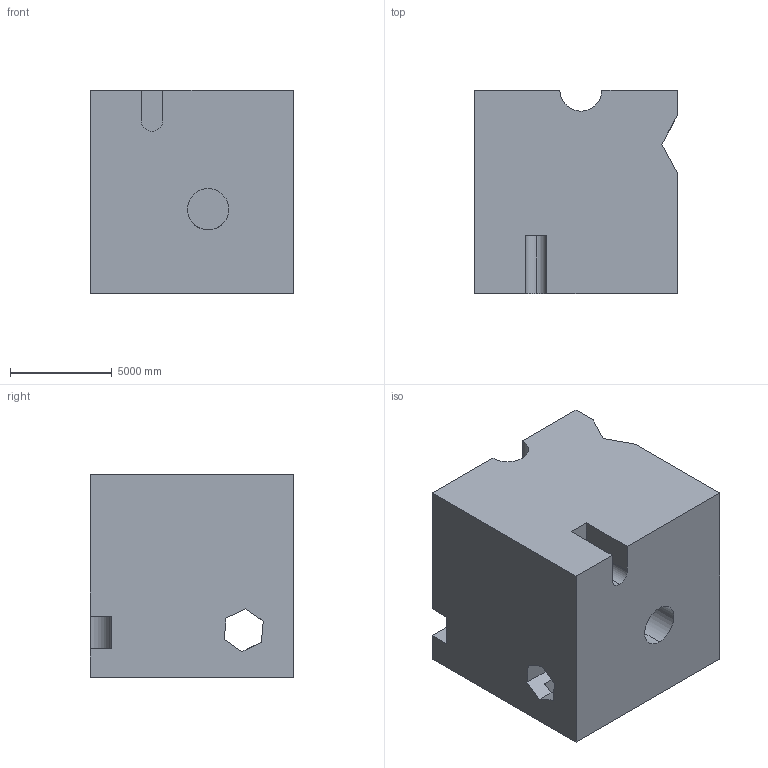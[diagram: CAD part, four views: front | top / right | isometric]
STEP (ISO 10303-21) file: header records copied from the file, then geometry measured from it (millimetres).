
FILE_DESCRIPTION (( 'STEP AP203' ), '1' );
FILE_NAME ('1885.STEP', '2022-08-19T13:58:21', ( 'user' ), ( '' ), 'SwSTEP 2.0', 'SolidWorks 2021', '' );
FILE_SCHEMA (( 'CONFIG_CONTROL_DESIGN' ));
Length unit declared in the file: centimetre
Products named in the file (1): 1885
Bounding box: 10000 x 10000 x 10000 mm (x, y, z)
Volume: 879419081698.3 mm3; surface area: 781897615.4 mm2
Topology: 1 solids, 1 shells, 51 faces, 153 edges, 102 vertices
Faces by surface type: plane 46, cylinder 5
Entity records: 1792 total; most frequent: CARTESIAN_POINT 319, ORIENTED_EDGE 306, DIRECTION 265, EDGE_CURVE 153, LINE 137, VECTOR 137, VERTEX_POINT 102, AXIS2_PLACEMENT_3D 64
